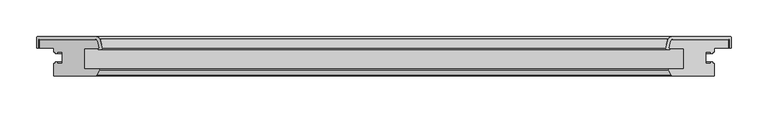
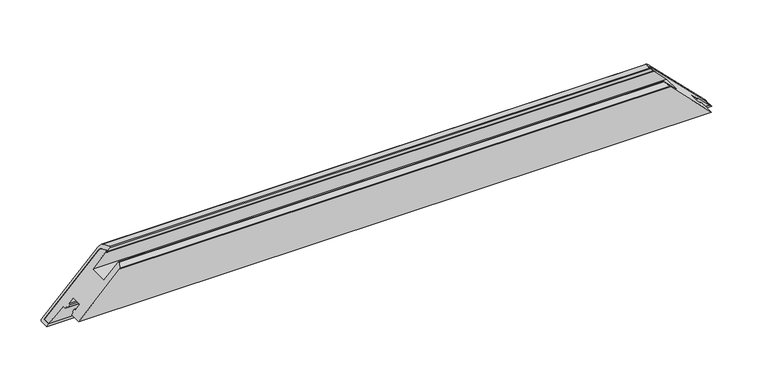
"""IFC4 building model written with IfcOpenShell, lengths in millimetres: proxy geometry, Weiku - Montante - Folha 02.2.01.018 : Weiku - Montante - Folha 02.2.01.018."""

import ifcopenshell
import ifcopenshell.guid

model = None  # the IFC model being written
_history = None  # IfcOwnerHistory: only IFC2X3 demands one
_inside = {}  # id of a spatial element -> (the spatial element, [elements in it])
_under = {}  # id of a project, library or spatial element -> (it, [spatial elements below it])
_declared = {}  # id of a project -> (the project, [libraries it declares])
_typed = {}  # id of a type object -> (the type object, [elements of that type])
_made_of = {}  # id of a material, layer set ... -> (it, [elements and type objects made of it])


def new_model(schema):
    """Start an empty IFC model of exactly this schema.

    Asked for "IFC4X3", IfcOpenShell would pick the latest addendum, in which some entities
    have other attributes; the version numbers below select the first issue.
    IFC2X3 requires an IfcOwnerHistory on every rooted entity: one is made here for all.
    """
    global model, _history
    if schema == "IFC4X3":
        model = ifcopenshell.file(schema_version=(4, 3, 0, 0))
    else:
        model = ifcopenshell.file(schema=schema)
    _inside.clear()
    _under.clear()
    _declared.clear()
    _typed.clear()
    _made_of.clear()
    _history = None
    if model.schema == "IFC2X3":
        org = make("IfcOrganization", Name="unknown")
        user = make(
            "IfcPersonAndOrganization",
            ThePerson=make("IfcPerson", FamilyName="unknown"),
            TheOrganization=org,
        )
        app = make(
            "IfcApplication",
            ApplicationDeveloper=org,
            Version="unknown",
            ApplicationFullName="unknown",
            ApplicationIdentifier="unknown",
        )
        _history = make(
            "IfcOwnerHistory",
            OwningUser=user,
            OwningApplication=app,
            ChangeAction="ADDED",
            CreationDate=0,
        )
    return model


def make(cls, **values):
    """One entity of the class cls with the attributes given. An attribute that is None is left unset."""
    return model.create_entity(
        cls, **{name: value for name, value in values.items() if value is not None}
    )


def rooted(cls, **values):
    """An entity with a GlobalId (a new one), such as an element, a storey or a relation."""
    return make(cls, GlobalId=ifcopenshell.guid.new(), OwnerHistory=_history, **values)


def si_unit(unit_type, name, prefix=None):
    """IfcSIUnit, for example si_unit("LENGTHUNIT", "METRE", prefix="MILLI")."""
    return make("IfcSIUnit", UnitType=unit_type, Prefix=prefix, Name=name)


def assignment(units):
    """IfcUnitAssignment: the units of a project."""
    return None if units is None else make("IfcUnitAssignment", Units=units)


def point(xyz):
    """IfcCartesianPoint."""
    return None if xyz is None else make("IfcCartesianPoint", Coordinates=xyz)


def direction(xyz):
    """IfcDirection."""
    return None if xyz is None else make("IfcDirection", DirectionRatios=xyz)


def frame(location, z_axis=None, x_axis=None):
    """IfcAxis2Placement3D, a coordinate frame: its origin and axes. An axis left out is left unset."""
    return make(
        "IfcAxis2Placement3D",
        Location=point(location),
        Axis=direction(z_axis),
        RefDirection=direction(x_axis),
    )


def origin():
    """The frame at (0, 0, 0) with its axes left unset."""
    return frame((0.0, 0.0, 0.0))


def place(relative_to, where):
    """IfcLocalPlacement: puts the frame where relative to a parent placement (None: the world)."""
    return make(
        "IfcLocalPlacement", PlacementRelTo=relative_to, RelativePlacement=where
    )


def context(
    kind, dimensions, precision=None, world=None, true_north=None, identifier=None
):
    """IfcGeometricRepresentationContext, for example the 3D "Model" context."""
    return make(
        "IfcGeometricRepresentationContext",
        ContextIdentifier=identifier,
        ContextType=kind,
        CoordinateSpaceDimension=dimensions,
        Precision=precision,
        WorldCoordinateSystem=world,
        TrueNorth=true_north,
    )


def project(units=None, contexts=None):
    """IfcProject with its units and contexts."""
    return rooted(
        "IfcProject",
        Name="project",
        RepresentationContexts=contexts,
        UnitsInContext=assignment(units),
    )


def spatial(cls, under=None, at=None, **own):
    """A site, building, storey or space (cls), placed at a placement, below another one or the project."""
    s = rooted(cls, ObjectPlacement=at, **own)
    if under is not None:
        _under.setdefault(under.id(), (under, []))[1].append(s)
    return s


def polyline(points):
    """IfcPolyline through the points."""
    return make("IfcPolyline", Points=[point(p) for p in points])


def ellipse_curve(where, semi_axis1, semi_axis2):
    """IfcEllipse in the frame where."""
    return make(
        "IfcEllipse", Position=where, SemiAxis1=semi_axis1, SemiAxis2=semi_axis2
    )


def shape(context_of_items, identifier, shape_type, items):
    """IfcShapeRepresentation: the items that make up one representation, for example the "Body"."""
    return make(
        "IfcShapeRepresentation",
        ContextOfItems=context_of_items,
        RepresentationIdentifier=identifier,
        RepresentationType=shape_type,
        Items=items,
    )


def source(mapping_origin, context_of_items, identifier, shape_type, items):
    """IfcRepresentationMap: a shape defined once, which mapped items show again and again."""
    return make(
        "IfcRepresentationMap",
        MappingOrigin=mapping_origin,
        MappedRepresentation=shape(context_of_items, identifier, shape_type, items),
    )


def transform(
    local_origin,
    x_axis=None,
    y_axis=None,
    z_axis=None,
    scale=None,
    scale2=None,
    scale3=None,
    uniform=True,
):
    """IfcCartesianTransformationOperator3D, or its non-uniform kind. x_axis, y_axis, z_axis: its Axis1, 2, 3."""
    if uniform:
        return make(
            "IfcCartesianTransformationOperator3D",
            Axis1=direction(x_axis),
            Axis2=direction(y_axis),
            LocalOrigin=point(local_origin),
            Scale=scale,
            Axis3=direction(z_axis),
        )
    return make(
        "IfcCartesianTransformationOperator3DnonUniform",
        Axis1=direction(x_axis),
        Axis2=direction(y_axis),
        LocalOrigin=point(local_origin),
        Scale=scale,
        Axis3=direction(z_axis),
        Scale2=scale2,
        Scale3=scale3,
    )


def mapped(mapping_source, mapping_target):
    """IfcMappedItem: shows the shape of a source again, moved by a transform."""
    return make(
        "IfcMappedItem", MappingSource=mapping_source, MappingTarget=mapping_target
    )


def made_of(thing, what):
    """Note that an element or type object is made of a material, layer set ...; save() writes the relation."""
    if what is not None:
        _made_of.setdefault(what.id(), (what, []))[1].append(thing)
    return thing


def element(
    cls,
    number,
    at=None,
    inside=None,
    cuts=None,
    type_object=None,
    material=None,
    context=None,
    identifier="Body",
    shape_type=None,
    held_by="IfcProductDefinitionShape",
    body=None,
    shapes=None,
    **own,
):
    """One element of the class cls, such as IfcWall. Its Tag is "e" and its number.

    at: its placement. inside: the storey or other place that contains it. cuts: it is an
    opening in that element (IfcRelVoidsElement). A single representation is given by context,
    identifier, shape_type and body (its items); several are given by shapes. held_by: the class
    of the entity that holds the representations. save() writes the other relations.
    """
    e = rooted(cls, Tag="e%d" % number, ObjectPlacement=at, **own)
    if body is not None:
        shapes = [shape(context, identifier, shape_type, body)]
    if shapes is not None:
        e.Representation = make(held_by, Representations=shapes)
    if inside is not None:
        _inside.setdefault(inside.id(), (inside, []))[1].append(e)
    if cuts is not None:
        rooted(
            "IfcRelVoidsElement", RelatingBuildingElement=cuts, RelatedOpeningElement=e
        )
    if type_object is not None:
        _typed.setdefault(type_object.id(), (type_object, []))[1].append(e)
    return made_of(e, material)


def aggregate(whole, parts):
    """IfcRelAggregates: a whole, such as a stair, and the parts it consists of."""
    return rooted("IfcRelAggregates", RelatingObject=whole, RelatedObjects=parts)


def save(model, path):
    """Write the relations noted so far, then the file.

    IfcRelAggregates (storeys below a building ...), IfcRelContainedInSpatialStructure (elements
    in a storey), IfcRelDefinesByType, IfcRelAssociatesMaterial and IfcRelDeclares: one each for
    every whole, place, type object, material and project.
    """
    for whole, parts in _under.values():
        aggregate(whole, parts)
    for where, things in _inside.values():
        rooted(
            "IfcRelContainedInSpatialStructure",
            RelatedElements=things,
            RelatingStructure=where,
        )
    for kind, things in _typed.values():
        rooted("IfcRelDefinesByType", RelatedObjects=things, RelatingType=kind)
    for what, things in _made_of.values():
        rooted("IfcRelAssociatesMaterial", RelatedObjects=things, RelatingMaterial=what)
    for by, libraries in _declared.values():
        rooted("IfcRelDeclares", RelatingContext=by, RelatedDefinitions=libraries)
    model.write(path)


def plane_surface(at):
    """IfcPlane: the flat surface through the origin of the frame at, square to its z axis."""
    return make("IfcPlane", Position=at)


def cylinder_surface(at, radius):
    """IfcCylindricalSurface: all points at the distance radius from the z axis of the frame at."""
    return make("IfcCylindricalSurface", Position=at, Radius=radius)


def revolved_surface(curve, axis_point, axis_direction):
    """IfcSurfaceOfRevolution: the curve turned about the line through axis_point along axis_direction."""
    return make(
        "IfcSurfaceOfRevolution",
        SweptCurve=make("IfcArbitraryOpenProfileDef", ProfileType="CURVE", Curve=curve),
        AxisPosition=make("IfcAxis1Placement", Location=point(axis_point), Axis=direction(axis_direction)),
    )


def advanced_brep(points, edges, surfaces, faces):
    """IfcAdvancedBrep: a solid bounded by faces that lie on surfaces and meet in shared edges.

    An edge is (start, end): straight between two places in points (the first is 0);
    or (start, end, curve); or (start, end, curve, False) where it runs against its curve.
    A face is (place in surfaces, loops), or (place, loops, False) where it looks against
    its surface's normal. A loop lists edges by number (the first is 1), with a minus sign
    where the edge is run from its end to its start. The first loop is the outer one.
    """
    corners = [point(p) for p in points]
    vertices = [make("IfcVertexPoint", VertexGeometry=c) for c in corners]
    made = []
    for start, end, *more in edges:
        made.append(
            make(
                "IfcEdgeCurve",
                EdgeStart=vertices[start],
                EdgeEnd=vertices[end],
                EdgeGeometry=more[0] if more else make("IfcPolyline", Points=[corners[start], corners[end]]),
                SameSense=more[1] if len(more) > 1 else True,
            )
        )
    hull = []
    for where, loops, *sense in faces:
        bounds = []
        for j, loop in enumerate(loops):
            ring = [make("IfcOrientedEdge", EdgeElement=made[abs(k) - 1], Orientation=k > 0) for k in loop]
            bounds.append(
                make(
                    "IfcFaceOuterBound" if j == 0 else "IfcFaceBound",
                    Bound=make("IfcEdgeLoop", EdgeList=ring),
                    Orientation=True,
                )
            )
        hull.append(make("IfcAdvancedFace", Bounds=bounds, FaceSurface=surfaces[where], SameSense=sense[0] if sense else True))
    return make("IfcAdvancedBrep", Outer=make("IfcClosedShell", CfsFaces=hull))


def generic_models_e429800f(model_context):
    return source(origin(), model_context, "Body", "AdvancedBrep", [
        advanced_brep(
        [(470.25, 50.0, 0.0), (393.2497332, 50.0, 77.0002668), (-393.2497332, 50.0, 77.0002668), (-470.25, 50.0, 0.0), (390.3519557, 47.7764571, 79.8980443), (-390.3519557, 47.7764571, 79.8980443), (387.7670371, 38.1294095, 82.4829629), (-387.7670371, 38.1294095, 82.4829629), (388.25, 37.5, 82.0), (-388.25, 37.5, 82.0), (389.1060102, 37.5, 81.1439898), (-389.1060102, 37.5, 81.1439898), (389.1060102, 36.5, 81.1439898), (-389.1060102, 36.5, 81.1439898), (384.4925588, 36.5, 85.7574412), (-384.4925588, 36.5, 85.7574412), (383.5266329, 37.758819, 86.7233671), (-383.5266329, 37.758819, 86.7233671), (386.8854501, 50.2940952, 83.3645499), (-386.8854501, 50.2940952, 83.3645499), (391.7150792, 54.0, 78.5349208), (-391.7150792, 54.0, 78.5349208), (471.25, 54.0, -1.0), (-471.25, 54.0, -1.0), (473.25, 52.0, -3.0), (-473.25, 52.0, -3.0), (473.25, 38.5, -3.0), (-473.25, 38.5, -3.0), (470.25, 38.5, 0.0), (-470.25, 38.5, 0.0)],
        [
            (0, 1),
            (1, 2),
            (2, 3),
            (3, 0),
            (1, 4, ellipse_curve(frame((393.2497332, 47.0, 77.0002668), z_axis=(0.707106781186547, 0.0, 0.7071067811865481), x_axis=(0.7071067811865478, 0.0, -0.707106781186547)), 4.2426407, 3.0)),
            (4, 5),
            (5, 2, ellipse_curve(frame((-393.2497332, 47.0, 77.0002668), z_axis=(-0.7071067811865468, 0.0, 0.7071067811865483), x_axis=(0.7071067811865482, 0.0, 0.7071067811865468)), 4.2426407, 3.0)),
            (4, 6),
            (6, 7),
            (7, 5),
            (6, 8, ellipse_curve(frame((388.25, 38.0, 82.0), z_axis=(0.707106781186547, 0.0, 0.7071067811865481), x_axis=(0.7071067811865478, 0.0, -0.707106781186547)), 0.7071068, 0.5)),
            (8, 9),
            (9, 7, ellipse_curve(frame((-388.25, 38.0, 82.0), z_axis=(-0.7071067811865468, 0.0, 0.7071067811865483), x_axis=(0.7071067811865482, 0.0, 0.7071067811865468)), 0.7071068, 0.5)),
            (8, 10),
            (10, 11),
            (11, 9),
            (10, 12, ellipse_curve(frame((389.1060102, 37.0, 81.1439898), z_axis=(-0.707106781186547, 0.0, -0.7071067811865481), x_axis=(-0.7071067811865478, 0.0, 0.707106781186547)), 0.7071068, 0.5)),
            (12, 13),
            (13, 11, ellipse_curve(frame((-389.1060102, 37.0, 81.1439898), z_axis=(0.7071067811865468, 0.0, -0.7071067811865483), x_axis=(-0.7071067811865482, 0.0, -0.7071067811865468)), 0.7071068, 0.5)),
            (12, 14),
            (14, 15),
            (15, 13),
            (14, 16, ellipse_curve(frame((384.4925588, 37.5, 85.7574412), z_axis=(-0.707106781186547, 0.0, -0.7071067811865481), x_axis=(-0.7071067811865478, 0.0, 0.707106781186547)), 1.4142136, 1.0)),
            (16, 17),
            (17, 15, ellipse_curve(frame((-384.4925588, 37.5, 85.7574412), z_axis=(0.7071067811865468, 0.0, -0.7071067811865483), x_axis=(-0.7071067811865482, 0.0, -0.7071067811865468)), 1.4142136, 1.0)),
            (16, 18),
            (18, 19),
            (19, 17),
            (18, 20, ellipse_curve(frame((391.7150792, 49.0, 78.5349208), z_axis=(-0.707106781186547, 0.0, -0.7071067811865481), x_axis=(-0.7071067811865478, 0.0, 0.707106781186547)), 7.0710678, 5.0)),
            (20, 21),
            (21, 19, ellipse_curve(frame((-391.7150792, 49.0, 78.5349208), z_axis=(0.7071067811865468, 0.0, -0.7071067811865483), x_axis=(-0.7071067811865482, 0.0, -0.7071067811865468)), 7.0710678, 5.0)),
            (20, 22),
            (22, 23),
            (23, 21),
            (22, 24, ellipse_curve(frame((471.25, 52.0, -1.0), z_axis=(-0.707106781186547, 0.0, -0.7071067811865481), x_axis=(-0.7071067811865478, 0.0, 0.707106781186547)), 2.8284271, 2.0)),
            (24, 25),
            (25, 23, ellipse_curve(frame((-471.25, 52.0, -1.0), z_axis=(0.7071067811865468, 0.0, -0.7071067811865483), x_axis=(-0.7071067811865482, 0.0, -0.7071067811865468)), 2.8284271, 2.0)),
            (24, 26),
            (26, 27),
            (27, 25),
            (26, 28),
            (28, 29),
            (29, 27),
            (28, 0),
            (3, 29),
        ],
        [
            plane_surface(frame((-490.25, 50.0, 0.0), z_axis=(0.0, -1.0, 0.0), x_axis=(1.0, 0.0, 0.0))),
            revolved_surface(polyline([(396.24973320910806, 50.0, 77.0002668), (-396.24973320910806, 50.0, 77.0002668)]), (-490.25, 47.0, 77.0002668), (1.0, 0.0, 0.0)),
            plane_surface(frame((-490.25, 47.7764571, 79.8980443), z_axis=(0.0, -0.2588190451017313, -0.9659258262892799), x_axis=(1.0, 0.0, 0.0))),
            revolved_surface(polyline([(388.75000001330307, 38.5, 82.0), (-388.7500000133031, 38.5, 82.0)]), (-490.25, 38.0, 82.0), (1.0, 0.0, 0.0)),
            plane_surface(frame((-490.25, 37.5, 82.0), z_axis=(0.0, 1.0, 0.0), x_axis=(1.0, 0.0, 0.0))),
            cylinder_surface(frame((-490.25, 37.0, 81.1439898), z_axis=(-1.0, 0.0, 0.0), x_axis=(0.0, 1.0, 0.0)), 0.5),
            plane_surface(frame((-490.25, 36.5, 81.1439898), z_axis=(0.0, -1.0, 0.0), x_axis=(1.0, 0.0, 0.0))),
            cylinder_surface(frame((-490.25, 37.5, 85.7574412), z_axis=(-1.0, 0.0, 0.0), x_axis=(0.0, 1.0, 0.0)), 1.0),
            plane_surface(frame((-490.25, 37.758819, 86.7233671), z_axis=(0.0, 0.25881904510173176, 0.9659258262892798), x_axis=(1.0, 0.0, 0.0))),
            cylinder_surface(frame((-490.25, 49.0, 78.5349208), z_axis=(-1.0, 0.0, 0.0), x_axis=(0.0, 1.0, 0.0)), 5.0),
            plane_surface(frame((-490.25, 54.0, 78.5349208), z_axis=(0.0, 1.0, 0.0), x_axis=(1.0, 0.0, 0.0))),
            cylinder_surface(frame((-490.25, 52.0, -1.0), z_axis=(-1.0, 0.0, 0.0), x_axis=(0.0, 1.0, 0.0)), 2.0),
            plane_surface(frame((-490.25, 52.0, -3.0), z_axis=(0.0, 0.0, -1.0), x_axis=(1.0, 0.0, 0.0))),
            plane_surface(frame((-490.25, 38.5, -3.0), z_axis=(0.0, -1.0, 0.0), x_axis=(1.0, 0.0, 0.0))),
            plane_surface(frame((-490.25, 38.5, 0.0), z_axis=(0.0, 0.0, 1.0), x_axis=(1.0, 0.0, 0.0))),
            plane_surface(frame((380.25, 0.0, 90.0), z_axis=(0.707106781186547, 0.0, 0.7071067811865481), x_axis=(0.0, 1.0, 0.0))),
            plane_surface(frame((-498.5342712, 0.0, -28.2842712), z_axis=(-0.7071067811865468, 0.0, 0.7071067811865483), x_axis=(0.0, 1.0, 0.0))),
        ],
        [
            (0, [[1, 2, 3, 4]]),
            (1, [[5, 6, 7, -2]]),
            (2, [[8, 9, 10, -6]]),
            (3, [[11, 12, 13, -9]]),
            (4, [[14, 15, 16, -12]]),
            (5, [[17, 18, 19, -15]]),
            (6, [[20, 21, 22, -18]]),
            (7, [[23, 24, 25, -21]]),
            (8, [[26, 27, 28, -24]]),
            (9, [[29, 30, 31, -27]]),
            (10, [[32, 33, 34, -30]]),
            (11, [[35, 36, 37, -33]]),
            (12, [[38, 39, 40, -36]]),
            (13, [[41, 42, 43, -39]]),
            (14, [[44, -4, 45, -42]]),
            (15, [[-1, -44, -41, -38, -35, -32, -29, -26, -23, -20, -17, -14, -11, -8, -5]]),
            (16, [[-3, -7, -10, -13, -16, -19, -22, -25, -28, -31, -34, -37, -40, -43, -45]]),
        ],
    ),
        advanced_brep(
        [(470.25, 50.0, 0.0), (-470.25, 50.0, 0.0), (-393.2497332, 50.0, 77.0002668), (393.2497332, 50.0, 77.0002668), (470.25, 38.5, 0.0), (-470.25, 38.5, 0.0), (-392.2372264, 0.0, 78.0127736), (-450.25, 0.0, 20.0), (450.25, 0.0, 20.0), (392.2372264, 0.0, 78.0127736), (-450.25, 38.5, 20.0), (-450.25, 33.1, 20.0), (-448.05, 33.1, 22.2), (-448.05, 31.1, 22.2), (-445.25, 31.1, 25.0), (-445.25, 33.1, 25.0), (-438.75, 33.1, 31.5), (-438.75, 16.9, 31.5), (-445.25, 16.9, 25.0), (-445.25, 18.9, 25.0), (-448.05, 18.9, 22.2), (-448.05, 16.9, 22.2), (-450.25, 16.9, 20.0), (-391.3432657, 0.5518546, 78.9067343), (-387.8012796, 7.617411, 82.4487204), (-388.9634285, 9.5, 81.2865715), (-408.75, 9.5, 61.5), (-408.75, 37.5, 61.5), (-388.25, 37.5, 82.0), (-387.7670371, 38.1294095, 82.4829629), (-390.3519557, 47.7764571, 79.8980443), (390.3519557, 47.7764571, 79.8980443), (387.7670371, 38.1294095, 82.4829629), (388.25, 37.5, 82.0), (408.75, 37.5, 61.5), (408.75, 9.5, 61.5), (388.9634285, 9.5, 81.2865715), (387.8012796, 7.617411, 82.4487204), (391.3432657, 0.5518546, 78.9067343), (450.25, 16.9, 20.0), (448.05, 16.9, 22.2), (448.05, 18.9, 22.2), (445.25, 18.9, 25.0), (445.25, 16.9, 25.0), (438.75, 16.9, 31.5), (438.75, 33.1, 31.5), (445.25, 33.1, 25.0), (445.25, 31.1, 25.0), (448.05, 31.1, 22.2), (448.05, 33.1, 22.2), (450.25, 33.1, 20.0), (450.25, 38.5, 20.0)],
        [
            (0, 1),
            (1, 2),
            (2, 3),
            (3, 0),
            (0, 4),
            (4, 5),
            (5, 1),
            (6, 7),
            (7, 8),
            (8, 9),
            (9, 6),
            (5, 10),
            (10, 11),
            (11, 12),
            (12, 13),
            (13, 14),
            (14, 15),
            (15, 16),
            (16, 17),
            (17, 18),
            (18, 19),
            (19, 20),
            (20, 21),
            (21, 22),
            (22, 7),
            (6, 23, ellipse_curve(frame((-392.2372264, 1.0, 78.0127736), z_axis=(-0.7071067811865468, 0.0, 0.7071067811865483), x_axis=(-0.7071067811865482, 0.0, -0.7071067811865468)), 1.4142136, 1.0)),
            (23, 24),
            (24, 25, ellipse_curve(frame((-388.9634285, 8.2, 81.2865715), z_axis=(-0.7071067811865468, 0.0, 0.7071067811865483), x_axis=(-0.7071067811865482, 0.0, -0.7071067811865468)), 1.8384776, 1.3)),
            (25, 26),
            (26, 27),
            (27, 28),
            (28, 29, ellipse_curve(frame((-388.25, 38.0, 82.0), z_axis=(-0.7071067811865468, 0.0, 0.7071067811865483), x_axis=(-0.7071067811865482, 0.0, -0.7071067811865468)), 0.7071068, 0.5)),
            (29, 30),
            (30, 2, ellipse_curve(frame((-393.2497332, 47.0, 77.0002668), z_axis=(-0.7071067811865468, 0.0, 0.7071067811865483), x_axis=(-0.7071067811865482, 0.0, -0.7071067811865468)), 4.2426407, 3.0)),
            (3, 31, ellipse_curve(frame((393.2497332, 47.0, 77.0002668), z_axis=(0.707106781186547, 0.0, 0.7071067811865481), x_axis=(-0.7071067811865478, 0.0, 0.707106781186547)), 4.2426407, 3.0)),
            (31, 32),
            (32, 33, ellipse_curve(frame((388.25, 38.0, 82.0), z_axis=(0.707106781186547, 0.0, 0.7071067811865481), x_axis=(-0.7071067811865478, 0.0, 0.707106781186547)), 0.7071068, 0.5)),
            (33, 34),
            (34, 35),
            (35, 36),
            (36, 37, ellipse_curve(frame((388.9634285, 8.2, 81.2865715), z_axis=(0.707106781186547, 0.0, 0.7071067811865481), x_axis=(-0.7071067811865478, 0.0, 0.707106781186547)), 1.8384776, 1.3)),
            (37, 38),
            (38, 9, ellipse_curve(frame((392.2372264, 1.0, 78.0127736), z_axis=(0.707106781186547, 0.0, 0.7071067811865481), x_axis=(-0.7071067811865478, 0.0, 0.707106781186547)), 1.4142136, 1.0)),
            (8, 39),
            (39, 40),
            (40, 41),
            (41, 42),
            (42, 43),
            (43, 44),
            (44, 45),
            (45, 46),
            (46, 47),
            (47, 48),
            (48, 49),
            (49, 50),
            (50, 51),
            (51, 4),
            (38, 23),
            (37, 24),
            (36, 25),
            (35, 26),
            (34, 27),
            (33, 28),
            (32, 29),
            (31, 30),
            (51, 10),
            (50, 11),
            (49, 12),
            (48, 13),
            (47, 14),
            (46, 15),
            (45, 16),
            (44, 17),
            (43, 18),
            (42, 19),
            (41, 20),
            (40, 21),
            (39, 22),
        ],
        [
            plane_surface(frame((-470.25, 50.0, 77.0002668), z_axis=(0.0, 1.0, 0.0), x_axis=(1.0, 0.0, 0.0))),
            plane_surface(frame((-470.25, 50.0, 0.0), z_axis=(0.0, 0.0, -1.0), x_axis=(1.0, 0.0, 0.0))),
            plane_surface(frame((-470.25, 0.0, 20.0), z_axis=(0.0, -1.0, 0.0), x_axis=(1.0, 0.0, 0.0))),
            plane_surface(frame((-498.5342712, 0.0, -28.2842712), z_axis=(-0.7071067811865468, 0.0, 0.7071067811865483), x_axis=(0.0, 1.0, 0.0))),
            plane_surface(frame((380.25, 0.0, 90.0), z_axis=(0.707106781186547, 0.0, 0.7071067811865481), x_axis=(0.0, 1.0, 0.0))),
            cylinder_surface(frame((-470.25, 1.0, 78.0127736), z_axis=(-1.0, 0.0, 0.0), x_axis=(0.0, 1.0, 0.0)), 1.0),
            plane_surface(frame((-470.25, 0.5518546, 78.9067343), z_axis=(0.0, -0.4481453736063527, 0.8939606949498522), x_axis=(1.0, 0.0, 0.0))),
            cylinder_surface(frame((-470.25, 8.2, 81.2865715), z_axis=(-1.0, 0.0, 0.0), x_axis=(0.0, 1.0, 0.0)), 1.3),
            plane_surface(frame((-470.25, 9.5, 81.2865715), z_axis=(0.0, 1.0, 0.0), x_axis=(1.0, 0.0, 0.0))),
            plane_surface(frame((-470.25, 9.5, 61.5), z_axis=(0.0, 0.0, 1.0), x_axis=(1.0, 0.0, 0.0))),
            plane_surface(frame((-470.25, 37.5, 61.5), z_axis=(0.0, -1.0, 0.0), x_axis=(1.0, 0.0, 0.0))),
            cylinder_surface(frame((-470.25, 38.0, 82.0), z_axis=(-1.0, 0.0, 0.0), x_axis=(0.0, 1.0, 0.0)), 0.5),
            plane_surface(frame((-470.25, 38.1294095, 82.4829629), z_axis=(0.0, 0.2588190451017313, 0.9659258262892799), x_axis=(1.0, 0.0, 0.0))),
            cylinder_surface(frame((-470.25, 47.0, 77.0002668), z_axis=(-1.0, 0.0, 0.0), x_axis=(0.0, 1.0, 0.0)), 3.0),
            plane_surface(frame((-470.25, 38.5, 0.0), z_axis=(0.0, -1.0, 0.0), x_axis=(1.0, 0.0, 0.0))),
            plane_surface(frame((-470.25, 38.5, 20.0), z_axis=(0.0, 0.0, -1.0), x_axis=(1.0, 0.0, 0.0))),
            plane_surface(frame((-470.25, 33.1, 20.0), z_axis=(0.0, -1.0, 0.0), x_axis=(1.0, 0.0, 0.0))),
            plane_surface(frame((-470.25, 33.1, 22.2), z_axis=(0.0, 0.0, -1.0), x_axis=(1.0, 0.0, 0.0))),
            plane_surface(frame((-470.25, 31.1, 22.2), z_axis=(0.0, -1.0, 0.0), x_axis=(1.0, 0.0, 0.0))),
            plane_surface(frame((-470.25, 31.1, 25.0), z_axis=(0.0, 0.0, 1.0), x_axis=(1.0, 0.0, 0.0))),
            plane_surface(frame((-470.25, 33.1, 25.0), z_axis=(0.0, -1.0, 0.0), x_axis=(1.0, 0.0, 0.0))),
            plane_surface(frame((-470.25, 33.1, 31.5), z_axis=(0.0, 0.0, -1.0), x_axis=(1.0, 0.0, 0.0))),
            plane_surface(frame((-470.25, 16.9, 31.5), z_axis=(0.0, 1.0, 0.0), x_axis=(1.0, 0.0, 0.0))),
            plane_surface(frame((-470.25, 16.9, 25.0), z_axis=(0.0, 0.0, 1.0), x_axis=(1.0, 0.0, 0.0))),
            plane_surface(frame((-470.25, 18.9, 25.0), z_axis=(0.0, 1.0, 0.0), x_axis=(1.0, 0.0, 0.0))),
            plane_surface(frame((-470.25, 18.9, 22.2), z_axis=(0.0, 0.0, -1.0), x_axis=(1.0, 0.0, 0.0))),
            plane_surface(frame((-470.25, 16.9, 22.2), z_axis=(0.0, 1.0, 0.0), x_axis=(1.0, 0.0, 0.0))),
            plane_surface(frame((-470.25, 16.9, 20.0), z_axis=(0.0, 0.0, -1.0), x_axis=(1.0, 0.0, 0.0))),
        ],
        [
            (0, [[1, 2, 3, 4]]),
            (1, [[-1, 5, 6, 7]]),
            (2, [[8, 9, 10, 11]]),
            (3, [[-2, -7, 12, 13, 14, 15, 16, 17, 18, 19, 20, 21, 22, 23, 24, 25, -8, 26, 27, 28, 29, 30, 31, 32, 33, 34]]),
            (4, [[-4, 35, 36, 37, 38, 39, 40, 41, 42, 43, -10, 44, 45, 46, 47, 48, 49, 50, 51, 52, 53, 54, 55, 56, 57, -5]]),
            (5, [[-26, -11, -43, 58]]),
            (6, [[-27, -58, -42, 59]]),
            (7, [[-28, -59, -41, 60]]),
            (8, [[-29, -60, -40, 61]]),
            (9, [[-30, -61, -39, 62]]),
            (10, [[-31, -62, -38, 63]]),
            (11, [[-32, -63, -37, 64]]),
            (12, [[-33, -64, -36, 65]]),
            (13, [[-34, -65, -35, -3]]),
            (14, [[-6, -57, 66, -12]]),
            (15, [[-13, -66, -56, 67]]),
            (16, [[-14, -67, -55, 68]]),
            (17, [[-15, -68, -54, 69]]),
            (18, [[-16, -69, -53, 70]]),
            (19, [[-17, -70, -52, 71]]),
            (20, [[-18, -71, -51, 72]]),
            (21, [[-19, -72, -50, 73]]),
            (22, [[-20, -73, -49, 74]]),
            (23, [[-21, -74, -48, 75]]),
            (24, [[-22, -75, -47, 76]]),
            (25, [[-23, -76, -46, 77]]),
            (26, [[-24, -77, -45, 78]]),
            (27, [[-25, -78, -44, -9]]),
        ],
    ),
    ])


if __name__ == "__main__":
    model = new_model("IFC4")
    model_context = context("Model", 3, world=origin())
    ifc_project = project(units=[si_unit("LENGTHUNIT", "METRE", prefix="MILLI")], contexts=[model_context])
    site = spatial("IfcSite", under=ifc_project)
    building = spatial("IfcBuilding", under=site)
    placement = place(None, origin())
    generic_models_shape = generic_models_e429800f(model_context)
    element("IfcBuildingElementProxy", 1, Name="Weiku - Montante - Folha 02.2.01.018 : Weiku - Montante - Folha 02.2.01.018", ObjectType="Weiku - Montante - Folha 02.2.01.018 : Weiku - Montante - Folha 02.2.01.018", at=placement, inside=building, context=model_context, shape_type="MappedRepresentation", body=[
        mapped(generic_models_shape, transform((0.0, 0.0, 0.0), x_axis=(1.0, 0.0, 0.0), y_axis=(0.0, 1.0, 0.0), z_axis=(0.0, 0.0, 1.0))),
    ])
    save(model, "model.ifc")
